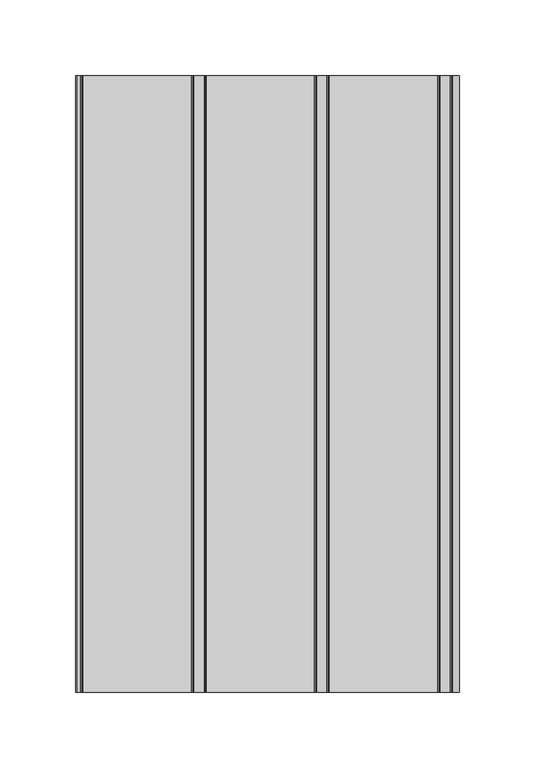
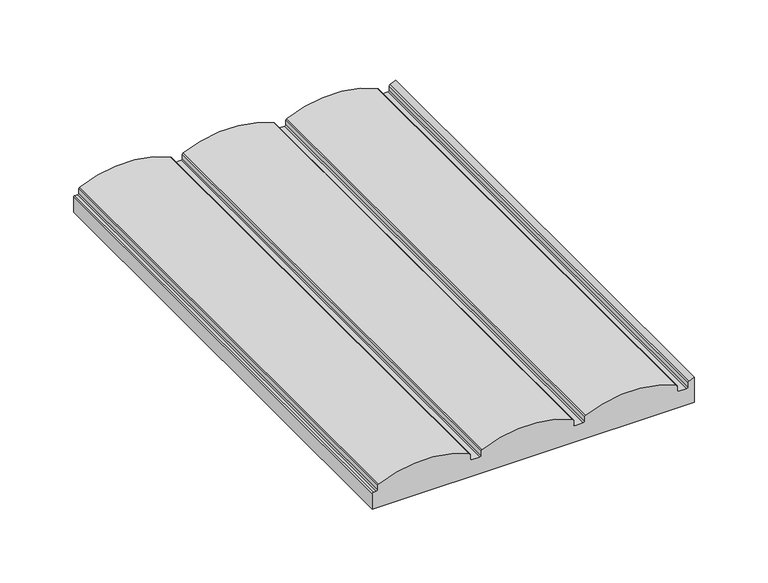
"""IFC4 building model written with IfcOpenShell, lengths in millimetres: proxy geometry, Spinneybeck_Porto 1 : Porto 1."""

from ifc_helpers import new_model, si_unit, point, frame, frame_2d, origin, place, context, project, spatial, polyline, circle_curve, trimmed, segment, composite_curve, outline, extrude, source, transform, mapped, element, save


def specialty_equipment_19383905(model_context):
    return source(origin(), model_context, "Body", "SweptSolid", [
        extrude(outline(composite_curve([segment(polyline([(0.0, -203.2), (0.0, 49.8), (20.8938655, 49.8)]), True, "CONTINUOUS"), segment(trimmed(circle_curve(frame_2d((-57.8431012, 81.28)), 84.7968178), [point((20.8938655, 49.8))], [point((19.0971842, 45.6332217))], False, "CARTESIAN"), True, "CONTINUOUS"), segment(trimmed(circle_curve(frame_2d((17.9268461, 46.1754446)), 1.2898437), [point((19.0971842, 45.6332217))], [point((17.9268461, 44.8856008))], False, "CARTESIAN"), True, "CONTINUOUS"), segment(polyline([(17.9268461, 44.8856008), (14.4921875, 44.8856008)]), True, "CONTINUOUS"), segment(trimmed(circle_curve(frame_2d((14.4921875, 43.8934133)), 0.9921875), [point((14.4921875, 44.8856008))], [point((13.5, 43.8934133))], True, "CARTESIAN"), True, "CONTINUOUS"), segment(polyline([(13.5, 43.8934133), (13.5, 37.3865867)]), True, "CONTINUOUS"), segment(trimmed(circle_curve(frame_2d((14.4921875, 37.3865867)), 0.9921875), [point((13.5, 37.3865867))], [point((14.4921875, 36.3943992))], True, "CARTESIAN"), True, "CONTINUOUS"), segment(polyline([(14.4921875, 36.3943992), (17.9268461, 36.3943992)]), True, "CONTINUOUS"), segment(trimmed(circle_curve(frame_2d((17.9268461, 35.1045554)), 1.2898437), [point((17.9268461, 36.3943992))], [point((19.0971842, 35.6467783))], False, "CARTESIAN"), True, "CONTINUOUS"), segment(trimmed(circle_curve(frame_2d((-57.8431012, 0.0)), 84.7968178), [point((19.0971842, 35.6467783))], [point((19.0971842, -35.6467783))], False, "CARTESIAN"), True, "CONTINUOUS"), segment(trimmed(circle_curve(frame_2d((17.9268461, -35.1045554)), 1.2898437), [point((19.0971842, -35.6467783))], [point((17.9268461, -36.3943992))], False, "CARTESIAN"), True, "CONTINUOUS"), segment(polyline([(17.9268461, -36.3943992), (14.4921875, -36.3943992)]), True, "CONTINUOUS"), segment(trimmed(circle_curve(frame_2d((14.4921875, -37.3865867)), 0.9921875), [point((14.4921875, -36.3943992))], [point((13.5, -37.3865867))], True, "CARTESIAN"), True, "CONTINUOUS"), segment(polyline([(13.5, -37.3865867), (13.5, -43.8934133)]), True, "CONTINUOUS"), segment(trimmed(circle_curve(frame_2d((14.4921875, -43.8934133)), 0.9921875), [point((13.5, -43.8934133))], [point((14.4921875, -44.8856008))], True, "CARTESIAN"), True, "CONTINUOUS"), segment(polyline([(14.4921875, -44.8856008), (17.9268461, -44.8856008)]), True, "CONTINUOUS"), segment(trimmed(circle_curve(frame_2d((17.9268461, -46.1754446)), 1.2898438), [point((17.9268461, -44.8856008))], [point((19.0971842, -45.6332217))], False, "CARTESIAN"), True, "CONTINUOUS"), segment(trimmed(circle_curve(frame_2d((-57.8431012, -81.28)), 84.7968178), [point((19.0971842, -45.6332217))], [point((19.0971842, -116.9267783))], False, "CARTESIAN"), True, "CONTINUOUS"), segment(trimmed(circle_curve(frame_2d((17.9268461, -116.3845554)), 1.2898437), [point((19.0971842, -116.9267783))], [point((17.9268461, -117.6743992))], False, "CARTESIAN"), True, "CONTINUOUS"), segment(polyline([(17.9268461, -117.6743992), (14.4921875, -117.6743992)]), True, "CONTINUOUS"), segment(trimmed(circle_curve(frame_2d((14.4921875, -118.6665867)), 0.9921875), [point((14.4921875, -117.6743992))], [point((13.5, -118.6665867))], True, "CARTESIAN"), True, "CONTINUOUS"), segment(polyline([(13.5, -118.6665867), (13.5, -125.1734133)]), True, "CONTINUOUS"), segment(trimmed(circle_curve(frame_2d((14.4921875, -125.1734133)), 0.9921875), [point((13.5, -125.1734133))], [point((14.4921875, -126.1656008))], True, "CARTESIAN"), True, "CONTINUOUS"), segment(polyline([(14.4921875, -126.1656008), (17.9268461, -126.1656008)]), True, "CONTINUOUS"), segment(trimmed(circle_curve(frame_2d((17.9268461, -127.4554446)), 1.2898437), [point((17.9268461, -126.1656008))], [point((19.0971842, -126.9132217))], False, "CARTESIAN"), True, "CONTINUOUS"), segment(trimmed(circle_curve(frame_2d((-57.8431012, -162.56)), 84.7968178), [point((19.0971842, -126.9132217))], [point((19.0971842, -198.2067783))], False, "CARTESIAN"), True, "CONTINUOUS"), segment(trimmed(circle_curve(frame_2d((17.9268461, -197.6645554)), 1.2898437), [point((19.0971842, -198.2067783))], [point((17.9268461, -198.9543992))], False, "CARTESIAN"), True, "CONTINUOUS"), segment(polyline([(17.9268461, -198.9543992), (14.4921875, -198.9543992)]), True, "CONTINUOUS"), segment(trimmed(circle_curve(frame_2d((14.4921875, -199.9465867)), 0.9921875), [point((14.4921875, -198.9543992))], [point((13.5, -199.9465867))], True, "CARTESIAN"), True, "CONTINUOUS"), segment(polyline([(13.5, -199.9465867), (13.5, -202.2078125)]), True, "CONTINUOUS"), segment(trimmed(circle_curve(frame_2d((12.5078125, -202.2078125)), 0.9921875), [point((13.5, -202.2078125))], [point((12.5078125, -203.2))], False, "CARTESIAN"), True, "CONTINUOUS"), segment(polyline([(12.5078125, -203.2), (0.0, -203.2)]), True, "CONTINUOUS")], self_intersect=False)), frame((0.0, -203.2, 0.0), z_axis=(0.0, 1.0, 0.0), x_axis=(0.0, 0.0, 1.0)), (0.0, 0.0, 1.0), 406.4),
    ])


if __name__ == "__main__":
    model = new_model("IFC4")
    model_context = context("Model", 3, world=origin())
    ifc_project = project(units=[si_unit("LENGTHUNIT", "METRE", prefix="MILLI")], contexts=[model_context])
    site = spatial("IfcSite", under=ifc_project)
    building = spatial("IfcBuilding", under=site)
    placement = place(None, origin())
    specialty_equipment_shape = specialty_equipment_19383905(model_context)
    element("IfcBuildingElementProxy", 1, Name="Spinneybeck_Porto 1 : Porto 1", ObjectType="Spinneybeck_Porto 1 : Porto 1", at=placement, inside=building, context=model_context, shape_type="MappedRepresentation", body=[
        mapped(specialty_equipment_shape, transform((0.0, 0.0, 0.0), x_axis=(1.0, 0.0, 0.0), y_axis=(0.0, 1.0, 0.0), z_axis=(0.0, 0.0, 1.0))),
    ])
    save(model, "model.ifc")
